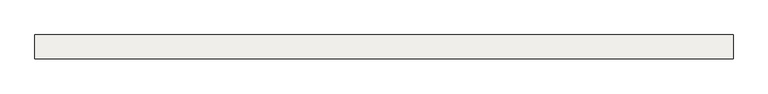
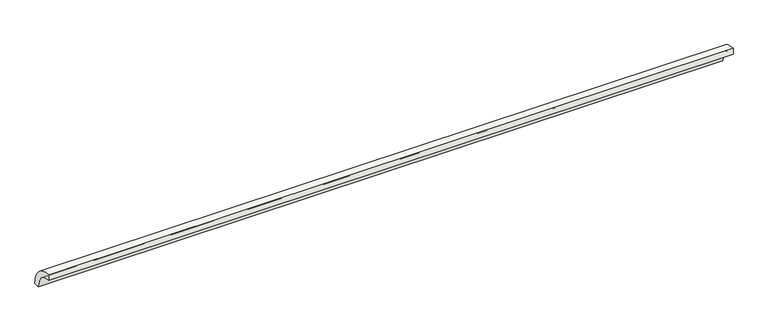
"""IFC4 building model written with IfcOpenShell, lengths in millimetres: slab geometry, ROSA GRES_138 : Pieza 138_Aqua_Plomo_Anti-Slip."""

from ifc_helpers import new_model, si_unit, point, frame, frame_2d, origin, origin_2d, place, context, project, spatial, polyline, circle_curve, trimmed, segment, composite_curve, outline, extrude, source, transform, mapped, element, save


def slab_426d9eff(model_context):
    return source(origin(), model_context, "Body", "SweptSolid", [
        extrude(outline(composite_curve([segment(trimmed(circle_curve(origin_2d(), 40.0), [point((0.0, 40.0))], [point((40.0, 0.0))], False, "CARTESIAN"), True, "CONTINUOUS"), segment(polyline([(40.0, 0.0), (30.0265886, 0.0)]), True, "CONTINUOUS"), segment(trimmed(circle_curve(frame_2d((0.0044453, 0.0044453)), 30.0221435), [point((30.0265886, 0.0))], [point((0.0, 30.0265886))], True, "CARTESIAN"), True, "CONTINUOUS"), segment(polyline([(0.0, 30.0265886), (0.0, 40.0)]), True, "CONTINUOUS")], self_intersect=False)), frame((0.0, 0.0, 0.0), z_axis=(1.0, 0.0, 0.0), x_axis=(0.0, 1.0, 0.0)), (0.0, 0.0, 1.0), 1160.0),
    ])


if __name__ == "__main__":
    model = new_model("IFC4")
    model_context = context("Model", 3, world=origin())
    ifc_project = project(units=[si_unit("LENGTHUNIT", "METRE", prefix="MILLI")], contexts=[model_context])
    site = spatial("IfcSite", under=ifc_project)
    building = spatial("IfcBuilding", under=site)
    placement = place(None, origin())
    slab_shape = slab_426d9eff(model_context)
    element("IfcSlab", 1, ObjectType="ROSA GRES_138 : Pieza 138_Aqua_Plomo_Anti-Slip", at=placement, inside=building, context=model_context, shape_type="MappedRepresentation", body=[
        mapped(slab_shape, transform((0.0, 0.0, 0.0), x_axis=(1.0, 0.0, 0.0), y_axis=(0.0, 1.0, 0.0), z_axis=(0.0, 0.0, 1.0))),
    ])
    save(model, "model.ifc")
